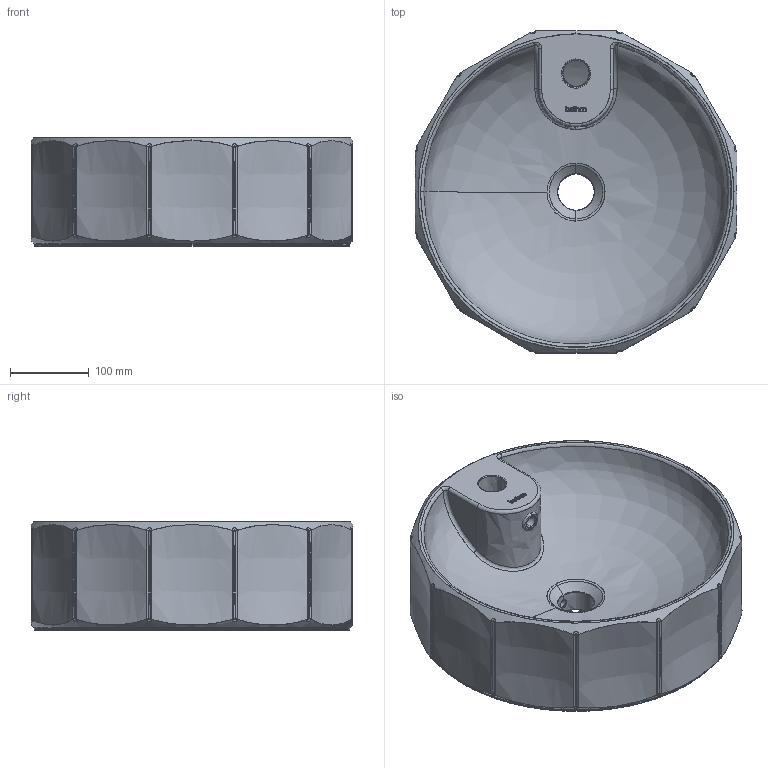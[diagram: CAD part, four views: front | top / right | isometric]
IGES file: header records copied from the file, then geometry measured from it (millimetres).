
Global section: file name: D:\Renovando Conceptos\Trabajos Varios\BathCo\47 Biblioteca Lavabos 3D\4158_CIRCUS\4158_CIRCUS.igs; native system: Rhinoceros ( May  7 2021 ); preprocessor: Trout Lake IGES 012 May  7 2021; date: 220804.082954; units: millimetre
Bounding box: 408.05 x 408.05 x 138 mm (x, y, z)
Surface area: 627866.7 mm2 (no closed solid volume)
Topology: 0 solids, 0 shells, 225 faces, 3440 edges, 3430 vertices
Faces by surface type: bspline 225
